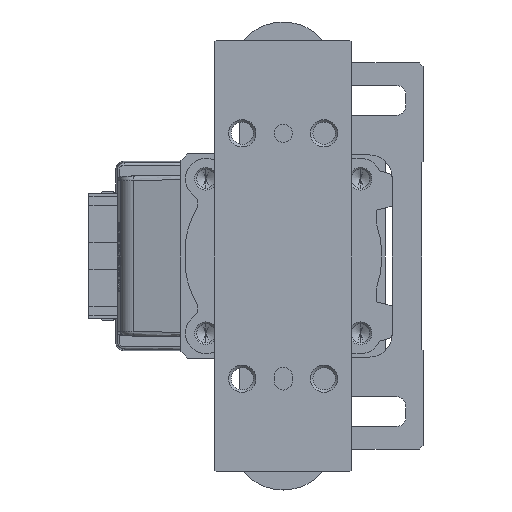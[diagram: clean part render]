
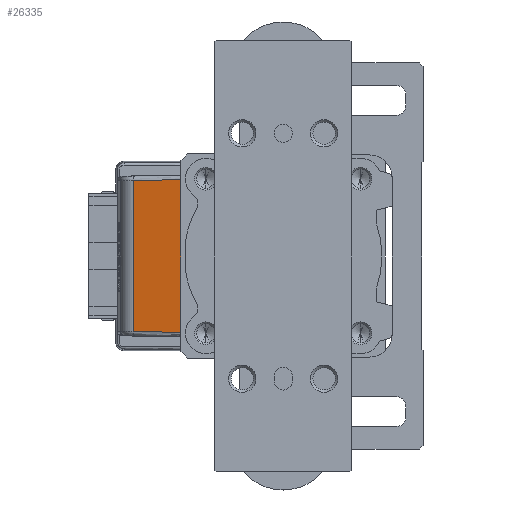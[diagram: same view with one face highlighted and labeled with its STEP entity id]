
A CAD part, left-side view. The second image highlights one B-rep face of the part: STEP entity #26335.
In plain terms, the highlighted planar face has unit normal (-0.985, 0.174, 0) as drawn and (0, 0.174, 0.985) by its records, which use the part's own axes.
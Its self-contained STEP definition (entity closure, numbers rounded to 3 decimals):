
#982 = CARTESIAN_POINT ( 'NONE',  ( -16.825, 20.983, -38.274 ) ) ;
#1460 = VERTEX_POINT ( 'NONE', #11540 ) ;
#2308 = DIRECTION ( 'NONE',  ( 1., 0., 0. ) ) ;
#2840 = VERTEX_POINT ( 'NONE', #22103 ) ;
#2917 = LINE ( 'NONE', #9335, #25605 ) ;
#3814 = VERTEX_POINT ( 'NONE', #12872 ) ;
#5579 = AXIS2_PLACEMENT_3D ( 'NONE', #9831, #22997, #35195 ) ;
#9335 = CARTESIAN_POINT ( 'NONE',  ( 0., 21., -38.277 ) ) ;
#9831 = CARTESIAN_POINT ( 'NONE',  ( 0., 21.26, -38.323 ) ) ;
#10675 = ORIENTED_EDGE ( 'NONE', *, *, #32195, .T. ) ;
#11540 = CARTESIAN_POINT ( 'NONE',  ( 16.617, 32.922, -40.379 ) ) ;
#12872 = CARTESIAN_POINT ( 'NONE',  ( -16.825, 21., -38.277 ) ) ;
#12937 = CARTESIAN_POINT ( 'NONE',  ( -17.568, 32.922, -40.379 ) ) ;
#17056 = DIRECTION ( 'NONE',  ( -0.017, -0.985, 0.174 ) ) ;
#17614 = LINE ( 'NONE', #20915, #37735 ) ;
#19261 = EDGE_CURVE ( 'NONE', #1460, #2840, #34120, .T. ) ;
#20915 = CARTESIAN_POINT ( 'NONE',  ( 16.617, 32.905, -40.376 ) ) ;
#21100 = ORIENTED_EDGE ( 'NONE', *, *, #19261, .T. ) ;
#22103 = CARTESIAN_POINT ( 'NONE',  ( -16.617, 32.922, -40.379 ) ) ;
#22997 = DIRECTION ( 'NONE',  ( 0., -0.174, -0.985 ) ) ;
#23259 = VECTOR ( 'NONE', #23294, 1000. ) ;
#23289 = LINE ( 'NONE', #982, #37292 ) ;
#23294 = DIRECTION ( 'NONE',  ( -1., 0., 0. ) ) ;
#24059 = EDGE_CURVE ( 'NONE', #2840, #3814, #23289, .T. ) ;
#25605 = VECTOR ( 'NONE', #2308, 1000. ) ;
#26335 = ADVANCED_FACE ( 'NONE', ( #27774 ), #30688, .F. ) ;
#27774 = FACE_OUTER_BOUND ( 'NONE', #34161, .T. ) ;
#28167 = DIRECTION ( 'NONE',  ( -0.017, 0.985, -0.174 ) ) ;
#28675 = ORIENTED_EDGE ( 'NONE', *, *, #39436, .T. ) ;
#30688 = PLANE ( 'NONE',  #5579 ) ;
#32195 = EDGE_CURVE ( 'NONE', #3814, #39300, #2917, .T. ) ;
#34120 = LINE ( 'NONE', #12937, #23259 ) ;
#34161 = EDGE_LOOP ( 'NONE', ( #21100, #40831, #10675, #28675 ) ) ;
#35195 = DIRECTION ( 'NONE',  ( 1., 0., 0. ) ) ;
#36481 = CARTESIAN_POINT ( 'NONE',  ( 16.825, 21., -38.277 ) ) ;
#37292 = VECTOR ( 'NONE', #17056, 1000. ) ;
#37735 = VECTOR ( 'NONE', #28167, 1000. ) ;
#39300 = VERTEX_POINT ( 'NONE', #36481 ) ;
#39436 = EDGE_CURVE ( 'NONE', #39300, #1460, #17614, .T. ) ;
#40831 = ORIENTED_EDGE ( 'NONE', *, *, #24059, .T. ) ;
